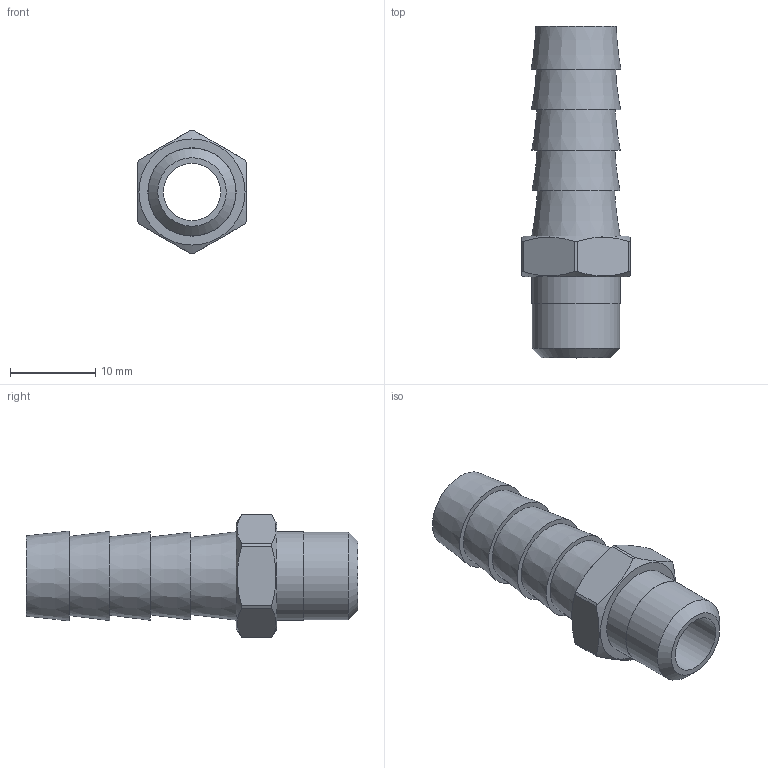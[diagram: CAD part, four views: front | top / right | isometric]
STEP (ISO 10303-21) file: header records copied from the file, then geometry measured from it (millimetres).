
FILE_DESCRIPTION(/* description */ (''),/* implementation_level */ '2;1');
FILE_NAME(/* name */ 'C:/Users/drich/Desktop/MB38-2 v1.step',/* time_stamp */ '2020-02-02T14:54:42-06:00',/* author */ (''),/* organization */ (''),/* preprocessor_version */ 'ST-DEVELOPER v18',/* originating_system */ 'Autodesk Translation Framework v8.12.0.6',/* authorisation */ '');
FILE_SCHEMA (('AUTOMOTIVE_DESIGN { 1 0 10303 214 3 1 1 }'));
Length unit declared in the file: inch
Products named in the file (2): MB38-2; 38 BARB ONLY
Assembly tree (1 placements, depth 2):
  MB38-2
    38 BARB ONLY
Bounding box: 12.7 x 38.91 x 14.48 mm (x, y, z)
Volume: 1810.9 mm3; surface area: 2449.1 mm2
Topology: 2 solids, 2 shells, 35 faces, 92 edges, 66 vertices
Faces by surface type: plane 15, cone 10, cylinder 10
Full cylindrical faces by diameter (mm): 6.731 x1, 7.112 x1, 10.312 x1, 10.363 x1
Entity records: 1191 total; most frequent: CARTESIAN_POINT 220, DIRECTION 210, ORIENTED_EDGE 184, EDGE_CURVE 92, AXIS2_PLACEMENT_3D 92, VERTEX_POINT 66, CIRCLE 54, EDGE_LOOP 44
